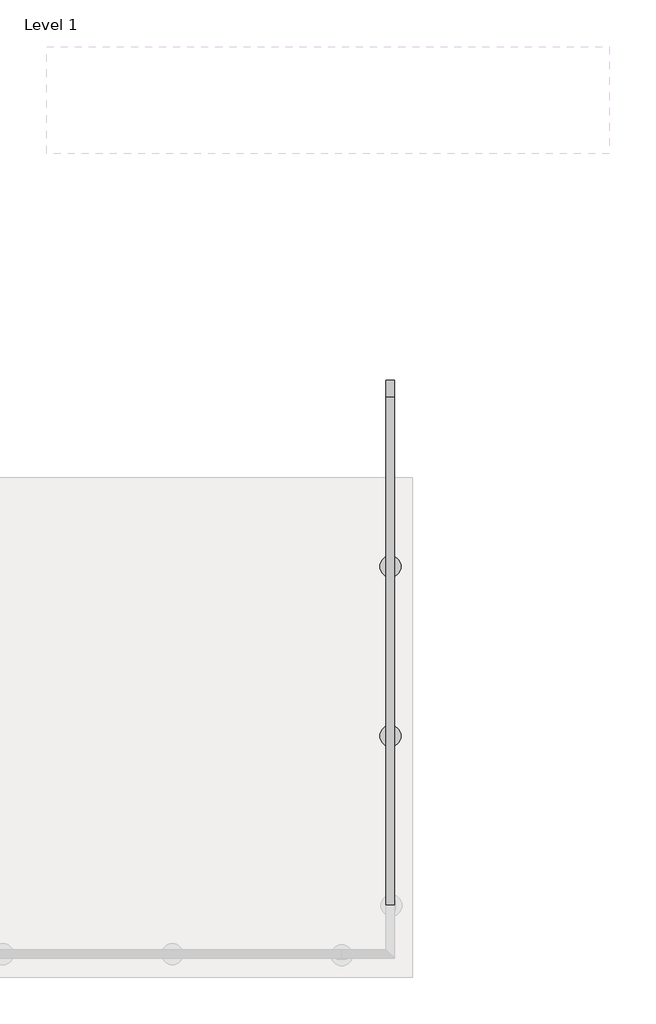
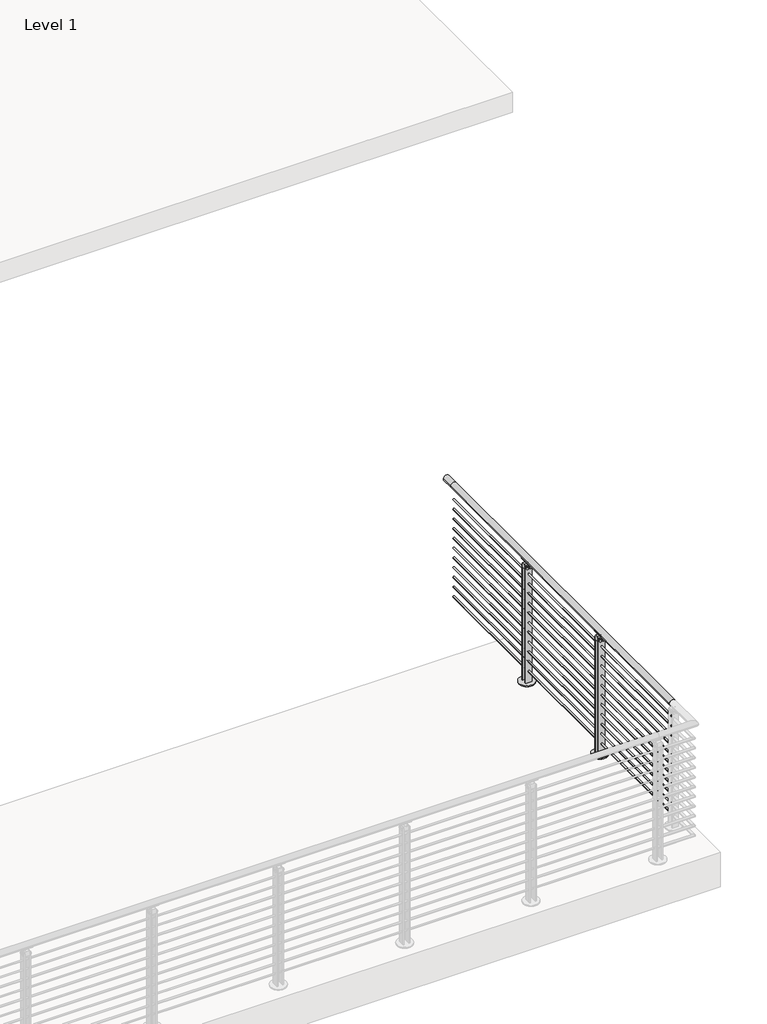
# One storey, part 14 of 36: 1 railing.
"""IFC4 building model written with IfcOpenShell, lengths in millimetres."""

from ifc_helpers import new_model, si_unit, point, frame, frame_2d, origin, origin_with_axes, place, context, project, spatial, polyline, circle_curve, trimmed, segment, composite_curve, outline, extrude, element, save
from ifc_brep_helpers import plane_surface, cylinder_surface, revolved_surface, advanced_brep

model = new_model("IFC4")

# Units and contexts
model_context = context("Model", 3, world=origin())
ifc_project = project(units=[si_unit("LENGTHUNIT", "METRE", prefix="MILLI")], contexts=[model_context])

# Site, building, storey
site = spatial("IfcSite", under=ifc_project)
building = spatial("IfcBuilding", under=site)
storey = spatial("IfcBuildingStorey", under=building, Name="Level 1", Elevation=0.0)

# Railing
placement = place(None, origin())
element("IfcRailing", 1, ObjectType="VIVA-BLADE-Multiline-Core Mount-Straight", at=placement, inside=storey, context=model_context, shape_type="SolidModel", body=[
    advanced_brep(
    [(69915.8092968, -74583.4334719, 1054.1), (69865.0092968, -74583.4334719, 1054.1), (69915.8092968, -71535.4334719, 1054.1), (69865.0092968, -71535.4334719, 1054.1), (69915.8092968, -71433.8334719, 1054.1), (69865.0092968, -71433.8334719, 1054.1)],
    [
        (0, 1, circle_curve(frame((69890.4092968, -74583.4334719, 1054.1), z_axis=(0.0, -1.0, 0.0), x_axis=(-1.0, 0.0, 0.0)), 25.4)),
        (1, 0, circle_curve(frame((69890.4092968, -74583.4334719, 1054.1), z_axis=(0.0, -1.0, 0.0), x_axis=(-1.0, 0.0, 0.0)), 25.4)),
        (0, 2),
        (2, 3, circle_curve(frame((69890.4092968, -71535.4334719, 1054.1), z_axis=(0.0, -1.0, 0.0), x_axis=(-1.0, 0.0, 0.0)), 25.4)),
        (3, 1),
        (3, 2, circle_curve(frame((69890.4092968, -71535.4334719, 1054.1), z_axis=(0.0, -1.0, 0.0), x_axis=(-1.0, 0.0, 0.0)), 25.4)),
        (4, 5, circle_curve(frame((69890.4092968, -71433.8334719, 1054.1), z_axis=(0.0, 1.0, 0.0), x_axis=(-1.0, 0.0, 0.0)), 25.4)),
        (5, 4, circle_curve(frame((69890.4092968, -71433.8334719, 1054.1), z_axis=(0.0, 1.0, 0.0), x_axis=(-1.0, 0.0, 0.0)), 25.4)),
        (2, 4),
        (5, 3),
    ],
    [
        plane_surface(frame((69890.4092968, -74583.4334719, 1079.5), z_axis=(0.0, -1.0, 0.0), x_axis=(0.0, 0.0, 1.0))),
        cylinder_surface(frame((69890.4092968, -74583.4334719, 1054.1), z_axis=(0.0, -1.0, 0.0), x_axis=(-1.0, 0.0, 0.0)), 25.4),
        plane_surface(frame((69890.4092968, -71433.8334719, 1079.5), z_axis=(0.0, 1.0, 0.0), x_axis=(0.0, 0.0, 1.0))),
        cylinder_surface(frame((69890.4092968, -71535.4334719, 1054.1), z_axis=(0.0, -1.0, 0.0), x_axis=(-1.0, 0.0, 0.0)), 25.4),
    ],
    [
        (0, [[1, 2]]),
        (1, [[-1, 3, 4, 5]]),
        (1, [[-2, -5, 6, -3]]),
        (2, [[7, 8]]),
        (3, [[-4, 9, -8, 10]]),
        (3, [[-6, -10, -7, -9]]),
    ],
),
    extrude(outline(composite_curve([segment(trimmed(circle_curve(frame_2d((933.45, 69890.4092968)), 6.35), [point((933.45, 69884.0592968))], [point((933.45, 69896.7592968))], False, "CARTESIAN"), True, "CONTINUOUS"), segment(trimmed(circle_curve(frame_2d((933.45, 69890.4092968)), 6.35), [point((933.45, 69896.7592968))], [point((933.45, 69884.0592968))], False, "CARTESIAN"), True, "CONTINUOUS")], self_intersect=False)), frame((0.0, -74583.4334719, 0.0), z_axis=(0.0, 1.0, 0.0), x_axis=(0.0, 0.0, 1.0)), (0.0, 0.0, 1.0), 3048.0),
    extrude(outline(composite_curve([segment(trimmed(circle_curve(frame_2d((850.9, 69890.4092968)), 6.35), [point((850.9, 69884.0592968))], [point((850.9, 69896.7592968))], False, "CARTESIAN"), True, "CONTINUOUS"), segment(trimmed(circle_curve(frame_2d((850.9, 69890.4092968)), 6.35), [point((850.9, 69896.7592968))], [point((850.9, 69884.0592968))], False, "CARTESIAN"), True, "CONTINUOUS")], self_intersect=False)), frame((0.0, -74583.4334719, 0.0), z_axis=(0.0, 1.0, 0.0), x_axis=(0.0, 0.0, 1.0)), (0.0, 0.0, 1.0), 3048.0),
    extrude(outline(composite_curve([segment(trimmed(circle_curve(frame_2d((768.35, 69890.4092968)), 6.35), [point((768.35, 69884.0592968))], [point((768.35, 69896.7592968))], False, "CARTESIAN"), True, "CONTINUOUS"), segment(trimmed(circle_curve(frame_2d((768.35, 69890.4092968)), 6.35), [point((768.35, 69896.7592968))], [point((768.35, 69884.0592968))], False, "CARTESIAN"), True, "CONTINUOUS")], self_intersect=False)), frame((0.0, -74583.4334719, 0.0), z_axis=(0.0, 1.0, 0.0), x_axis=(0.0, 0.0, 1.0)), (0.0, 0.0, 1.0), 3048.0),
    extrude(outline(composite_curve([segment(trimmed(circle_curve(frame_2d((685.8, 69890.4092968)), 6.35), [point((685.8, 69884.0592968))], [point((685.8, 69896.7592968))], False, "CARTESIAN"), True, "CONTINUOUS"), segment(trimmed(circle_curve(frame_2d((685.8, 69890.4092968)), 6.35), [point((685.8, 69896.7592968))], [point((685.8, 69884.0592968))], False, "CARTESIAN"), True, "CONTINUOUS")], self_intersect=False)), frame((0.0, -74583.4334719, 0.0), z_axis=(0.0, 1.0, 0.0), x_axis=(0.0, 0.0, 1.0)), (0.0, 0.0, 1.0), 3048.0),
    extrude(outline(composite_curve([segment(trimmed(circle_curve(frame_2d((603.25, 69890.4092968)), 6.35), [point((603.25, 69884.0592968))], [point((603.25, 69896.7592968))], False, "CARTESIAN"), True, "CONTINUOUS"), segment(trimmed(circle_curve(frame_2d((603.25, 69890.4092968)), 6.35), [point((603.25, 69896.7592968))], [point((603.25, 69884.0592968))], False, "CARTESIAN"), True, "CONTINUOUS")], self_intersect=False)), frame((0.0, -74583.4334719, 0.0), z_axis=(0.0, 1.0, 0.0), x_axis=(0.0, 0.0, 1.0)), (0.0, 0.0, 1.0), 3048.0),
    extrude(outline(composite_curve([segment(trimmed(circle_curve(frame_2d((520.7, 69890.4092968)), 6.35), [point((520.7, 69884.0592968))], [point((520.7, 69896.7592968))], False, "CARTESIAN"), True, "CONTINUOUS"), segment(trimmed(circle_curve(frame_2d((520.7, 69890.4092968)), 6.35), [point((520.7, 69896.7592968))], [point((520.7, 69884.0592968))], False, "CARTESIAN"), True, "CONTINUOUS")], self_intersect=False)), frame((0.0, -74583.4334719, 0.0), z_axis=(0.0, 1.0, 0.0), x_axis=(0.0, 0.0, 1.0)), (0.0, 0.0, 1.0), 3048.0),
    extrude(outline(composite_curve([segment(trimmed(circle_curve(frame_2d((438.15, 69890.4092968)), 6.35), [point((438.15, 69884.0592968))], [point((438.15, 69896.7592968))], False, "CARTESIAN"), True, "CONTINUOUS"), segment(trimmed(circle_curve(frame_2d((438.15, 69890.4092968)), 6.35), [point((438.15, 69896.7592968))], [point((438.15, 69884.0592968))], False, "CARTESIAN"), True, "CONTINUOUS")], self_intersect=False)), frame((0.0, -74583.4334719, 0.0), z_axis=(0.0, 1.0, 0.0), x_axis=(0.0, 0.0, 1.0)), (0.0, 0.0, 1.0), 3048.0),
    extrude(outline(composite_curve([segment(trimmed(circle_curve(frame_2d((355.6, 69890.4092968)), 6.35), [point((355.6, 69884.0592968))], [point((355.6, 69896.7592968))], False, "CARTESIAN"), True, "CONTINUOUS"), segment(trimmed(circle_curve(frame_2d((355.6, 69890.4092968)), 6.35), [point((355.6, 69896.7592968))], [point((355.6, 69884.0592968))], False, "CARTESIAN"), True, "CONTINUOUS")], self_intersect=False)), frame((0.0, -74583.4334719, 0.0), z_axis=(0.0, 1.0, 0.0), x_axis=(0.0, 0.0, 1.0)), (0.0, 0.0, 1.0), 3048.0),
    extrude(outline(composite_curve([segment(trimmed(circle_curve(frame_2d((273.05, 69890.4092968)), 6.35), [point((273.05, 69884.0592968))], [point((273.05, 69896.7592968))], False, "CARTESIAN"), True, "CONTINUOUS"), segment(trimmed(circle_curve(frame_2d((273.05, 69890.4092968)), 6.35), [point((273.05, 69896.7592968))], [point((273.05, 69884.0592968))], False, "CARTESIAN"), True, "CONTINUOUS")], self_intersect=False)), frame((0.0, -74583.4334719, 0.0), z_axis=(0.0, 1.0, 0.0), x_axis=(0.0, 0.0, 1.0)), (0.0, 0.0, 1.0), 3048.0),
    extrude(outline(composite_curve([segment(trimmed(circle_curve(frame_2d((190.5, 69890.4092968)), 6.35), [point((190.5, 69884.0592968))], [point((190.5, 69896.7592968))], False, "CARTESIAN"), True, "CONTINUOUS"), segment(trimmed(circle_curve(frame_2d((190.5, 69890.4092968)), 6.35), [point((190.5, 69896.7592968))], [point((190.5, 69884.0592968))], False, "CARTESIAN"), True, "CONTINUOUS")], self_intersect=False)), frame((0.0, -74583.4334719, 0.0), z_axis=(0.0, 1.0, 0.0), x_axis=(0.0, 0.0, 1.0)), (0.0, 0.0, 1.0), 3048.0),
    extrude(outline(composite_curve([segment(trimmed(circle_curve(frame_2d((107.95, 69890.4092968)), 6.35), [point((107.95, 69884.0592968))], [point((107.95, 69896.7592968))], False, "CARTESIAN"), True, "CONTINUOUS"), segment(trimmed(circle_curve(frame_2d((107.95, 69890.4092968)), 6.35), [point((107.95, 69896.7592968))], [point((107.95, 69884.0592968))], False, "CARTESIAN"), True, "CONTINUOUS")], self_intersect=False)), frame((0.0, -74583.4334719, 0.0), z_axis=(0.0, 1.0, 0.0), x_axis=(0.0, 0.0, 1.0)), (0.0, 0.0, 1.0), 3048.0),
    extrude(outline(polyline([(69865.0095001, -72578.5083075), (69865.0095001, -72570.4834719), (69915.8118247, -72570.4834719), (69915.8118247, -72578.5083075), (69865.0095001, -72578.5083075)])), frame((0.0, 0.0, -146.05), z_axis=(0.0, 0.0, 1.0), x_axis=(1.0, 0.0, 0.0)), (0.0, 0.0, 1.0), 146.05),
    extrude(outline(polyline([(69865.0095001, -72532.3835099), (69865.0095001, -72524.3825099), (69915.8118247, -72524.3825099), (69915.8118247, -72532.3835099), (69865.0095001, -72532.3835099)])), frame((0.0, 0.0, -146.05), z_axis=(0.0, 0.0, 1.0), x_axis=(1.0, 0.0, 0.0)), (0.0, 0.0, 1.0), 146.05),
    extrude(outline(composite_curve([segment(trimmed(circle_curve(frame_2d((69890.4092968, -72551.4454087)), 63.4988059), [point((69953.9081027, -72551.4454087))], [point((69826.9104908, -72551.4454087))], False, "CARTESIAN"), True, "CONTINUOUS"), segment(trimmed(circle_curve(frame_2d((69890.4092968, -72551.4454087)), 63.4988059), [point((69826.9104908, -72551.4454087))], [point((69953.9081027, -72551.4454087))], False, "CARTESIAN"), True, "CONTINUOUS")], self_intersect=False)), origin_with_axes(), (0.0, 0.0, 1.0), 9.525),
    advanced_brep(
    [(69877.6491731, -72506.1960719, 1032.0967655), (69902.5212376, -72506.1960719, 1031.9535285), (69905.330168, -72506.1960719, 1027.1267745), (69873.8132757, -72506.1960719, 1027.707533), (69877.6491731, -72596.6708719, 1032.0967655), (69873.8132757, -72596.6708719, 1027.707533), (69905.4439614, -72596.6708719, 1027.1893964), (69902.6082098, -72596.6708719, 1032.0018447)],
    [
        (0, 1, circle_curve(frame((69890.212976, -72506.1960719, 1054.2115898), z_axis=(0.0, -1.0, 0.0), x_axis=(-1.0, 0.0, 0.0)), 25.4345159)),
        (1, 2, circle_curve(frame((69903.8528629, -72506.1960719, 1029.4993599), z_axis=(0.0, 1.0, 0.0), x_axis=(-1.0, 0.0, 0.0)), 2.7949225)),
        (2, 3, circle_curve(frame((69890.0795129, -72506.1960719, 1054.9742164), z_axis=(0.0, 1.0, 0.0), x_axis=(-1.0, 0.0, 0.0)), 31.75)),
        (3, 0, circle_curve(frame((69876.1016155, -72506.1960719, 1029.5784521), z_axis=(0.0, 1.0, 0.0), x_axis=(-1.0, 0.0, 0.0)), 2.9558141)),
        (4, 5, circle_curve(frame((69876.1016155, -72596.6708719, 1029.5784521), z_axis=(0.0, -1.0, 0.0), x_axis=(-1.0, 0.0, 0.0)), 2.9558141)),
        (5, 6, circle_curve(frame((69890.0795129, -72596.6708719, 1054.9742164), z_axis=(0.0, -1.0, 0.0), x_axis=(-1.0, 0.0, 0.0)), 31.75)),
        (6, 7, circle_curve(frame((69903.8528629, -72596.6708719, 1029.4993599), z_axis=(0.0, -1.0, 0.0), x_axis=(-1.0, 0.0, 0.0)), 2.7949225)),
        (7, 4, circle_curve(frame((69890.212976, -72596.6708719, 1054.2115898), z_axis=(0.0, 1.0, 0.0), x_axis=(-1.0, 0.0, 0.0)), 25.4345159)),
        (0, 4),
        (7, 1),
        (6, 2),
        (5, 3),
    ],
    [
        plane_surface(frame((69864.7784602, -72506.1960719, 1054.2115898), z_axis=(0.0, 1.0, 0.0), x_axis=(0.0, 0.0, -1.0))),
        plane_surface(frame((69864.7784602, -72596.6708719, 1054.2115898), z_axis=(0.0, -1.0, 0.0), x_axis=(0.0, 0.0, 1.0))),
        revolved_surface(polyline([(69864.7784601, -72596.6708719, 1054.2115898), (69864.7784601, -72506.1960719, 1054.2115898)]), (69890.212976, -72596.6708719, 1054.2115898), (0.0, -1.0, 0.0)),
        cylinder_surface(frame((69903.8528629, -72596.6708719, 1029.4993599), z_axis=(0.0, 1.0, 0.0), x_axis=(-1.0, 0.0, 0.0)), 2.7949225),
        cylinder_surface(frame((69890.0795129, -72596.6708719, 1054.9742164), z_axis=(0.0, 1.0, 0.0), x_axis=(-1.0, 0.0, 0.0)), 31.75),
        cylinder_surface(frame((69876.1016155, -72596.6708719, 1029.5784521), z_axis=(0.0, 1.0, 0.0), x_axis=(-1.0, 0.0, 0.0)), 2.9558141),
    ],
    [
        (0, [[1, 2, 3, 4]]),
        (1, [[5, 6, 7, 8]]),
        (2, [[-1, 9, -8, 10]]),
        (3, [[-2, -10, -7, 11]]),
        (4, [[-3, -11, -6, 12]]),
        (5, [[-4, -12, -5, -9]]),
    ],
),
    advanced_brep(
    [(69887.8692968, -72538.7334719, 1014.4125), (69887.8692968, -72564.1334719, 1014.4125), (69887.8692968, -72578.5013867, 1028.7804149), (69887.8692968, -72524.365557, 1028.7804149), (69892.9492968, -72538.7334719, 1014.4125), (69892.9492968, -72524.365557, 1028.7804149), (69892.9492968, -72578.5013867, 1028.7804149), (69892.9492968, -72564.1334719, 1014.4125)],
    [
        (0, 1),
        (1, 2, circle_curve(frame((69887.8692968, -72578.5013867, 1014.4125), z_axis=(1.0, 0.0, 0.0), x_axis=(0.0, -1.0, 0.0)), 14.3679149)),
        (2, 3),
        (3, 0, circle_curve(frame((69887.8692968, -72524.365557, 1014.4125), z_axis=(1.0, 0.0, 0.0), x_axis=(0.0, -1.0, 0.0)), 14.3679149)),
        (4, 5, circle_curve(frame((69892.9492968, -72524.365557, 1014.4125), z_axis=(-1.0, 0.0, 0.0), x_axis=(0.0, -1.0, 0.0)), 14.3679149)),
        (5, 6),
        (6, 7, circle_curve(frame((69892.9492968, -72578.5013867, 1014.4125), z_axis=(-1.0, 0.0, 0.0), x_axis=(0.0, -1.0, 0.0)), 14.3679149)),
        (7, 4),
        (0, 4),
        (7, 1),
        (6, 2),
        (5, 3),
    ],
    [
        plane_surface(frame((69887.8692968, -72564.1334719, 1014.4125), z_axis=(-1.0, 0.0, 0.0), x_axis=(0.0, -1.0, 0.0))),
        plane_surface(frame((69892.9492968, -72564.1334719, 1014.4125), z_axis=(1.0, 0.0, 0.0), x_axis=(0.0, 1.0, 0.0))),
        plane_surface(frame((69887.8692968, -72538.7334719, 1014.4125), z_axis=(0.0, 0.0, -1.0), x_axis=(1.0, 0.0, 0.0))),
        revolved_surface(polyline([(69892.9492968, -72592.86930159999, 1014.4125), (69887.8692968, -72592.86930159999, 1014.4125)]), (69892.9492968, -72578.5013867, 1014.4125), (1.0, 0.0, 0.0)),
        plane_surface(frame((69887.8692968, -72578.5013867, 1028.7804149), z_axis=(0.0, 0.0, 1.0), x_axis=(1.0, 0.0, 0.0))),
        revolved_surface(polyline([(69892.9492968, -72538.73347189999, 1014.4125), (69887.8692968, -72538.73347189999, 1014.4125)]), (69892.9492968, -72524.365557, 1014.4125), (1.0, 0.0, 0.0)),
    ],
    [
        (0, [[1, 2, 3, 4]]),
        (1, [[5, 6, 7, 8]]),
        (2, [[-1, 9, -8, 10]]),
        (3, [[-2, -10, -7, 11]]),
        (4, [[-3, -11, -6, 12]]),
        (5, [[-4, -12, -5, -9]]),
    ],
),
    extrude(outline(polyline([(69865.0095001, -72578.5083075), (69865.0095001, -72570.4834719), (69915.8118247, -72570.4834719), (69915.8118247, -72578.5083075), (69865.0095001, -72578.5083075)])), origin_with_axes(), (0.0, 0.0, 1.0), 996.95),
    extrude(outline(composite_curve([segment(trimmed(circle_curve(frame_2d((986.0416929, 69903.1117737)), 8.89), [point((986.0416929, 69912.0017737))], [point((986.0416929, 69894.2217737))], False, "CARTESIAN"), True, "CONTINUOUS"), segment(trimmed(circle_curve(frame_2d((986.0416929, 69903.1117737)), 8.89), [point((986.0416929, 69894.2217737))], [point((986.0416929, 69912.0017737))], False, "CARTESIAN"), True, "CONTINUOUS")], self_intersect=False)), frame((0.0, -72583.1834719, 0.0), z_axis=(0.0, 1.0, 0.0), x_axis=(0.0, 0.0, 1.0)), (0.0, 0.0, 1.0), 63.4880631),
    extrude(outline(composite_curve([segment(trimmed(circle_curve(frame_2d((986.0416929, 69877.7118757)), 8.89), [point((986.0416929, 69886.6018757))], [point((986.0416929, 69868.8218757))], False, "CARTESIAN"), True, "CONTINUOUS"), segment(trimmed(circle_curve(frame_2d((986.0416929, 69877.7118757)), 8.89), [point((986.0416929, 69868.8218757))], [point((986.0416929, 69886.6018757))], False, "CARTESIAN"), True, "CONTINUOUS")], self_intersect=False)), frame((0.0, -72583.1834719, 0.0), z_axis=(0.0, 1.0, 0.0), x_axis=(0.0, 0.0, 1.0)), (0.0, 0.0, 1.0), 63.4880631),
    extrude(outline(polyline([(-72570.4834719, 974.7123), (-72570.4834719, 1008.0625), (-72564.1334719, 1014.4125), (-72538.7334719, 1014.4125), (-72532.3834719, 1008.0625), (-72532.3834719, 974.7123), (-72570.4834719, 974.7123)])), frame((69865.0092968, 0.0, 0.0), z_axis=(1.0, 0.0, 0.0), x_axis=(0.0, 1.0, 0.0)), (0.0, 0.0, 1.0), 50.8025279),
    extrude(outline(polyline([(69865.0095001, -72532.3835099), (69865.0095001, -72524.3825099), (69915.8118247, -72524.3825099), (69915.8118247, -72532.3835099), (69865.0095001, -72532.3835099)])), origin_with_axes(), (0.0, 0.0, 1.0), 996.95),
    extrude(outline(polyline([(69865.0095001, -73594.5083075), (69865.0095001, -73586.4834719), (69915.8118247, -73586.4834719), (69915.8118247, -73594.5083075), (69865.0095001, -73594.5083075)])), frame((0.0, 0.0, -146.05), z_axis=(0.0, 0.0, 1.0), x_axis=(1.0, 0.0, 0.0)), (0.0, 0.0, 1.0), 146.05),
    extrude(outline(polyline([(69865.0095001, -73548.3835099), (69865.0095001, -73540.3825099), (69915.8118247, -73540.3825099), (69915.8118247, -73548.3835099), (69865.0095001, -73548.3835099)])), frame((0.0, 0.0, -146.05), z_axis=(0.0, 0.0, 1.0), x_axis=(1.0, 0.0, 0.0)), (0.0, 0.0, 1.0), 146.05),
    extrude(outline(composite_curve([segment(trimmed(circle_curve(frame_2d((69890.4092968, -73567.4454087)), 63.4988059), [point((69953.9081027, -73567.4454087))], [point((69826.9104908, -73567.4454087))], False, "CARTESIAN"), True, "CONTINUOUS"), segment(trimmed(circle_curve(frame_2d((69890.4092968, -73567.4454087)), 63.4988059), [point((69826.9104908, -73567.4454087))], [point((69953.9081027, -73567.4454087))], False, "CARTESIAN"), True, "CONTINUOUS")], self_intersect=False)), origin_with_axes(), (0.0, 0.0, 1.0), 9.525),
    advanced_brep(
    [(69877.6491731, -73522.1960719, 1032.0967655), (69902.5212376, -73522.1960719, 1031.9535285), (69905.330168, -73522.1960719, 1027.1267745), (69873.8132757, -73522.1960719, 1027.707533), (69877.6491731, -73612.6708719, 1032.0967655), (69873.8132757, -73612.6708719, 1027.707533), (69905.4439614, -73612.6708719, 1027.1893964), (69902.6082098, -73612.6708719, 1032.0018447)],
    [
        (0, 1, circle_curve(frame((69890.212976, -73522.1960719, 1054.2115898), z_axis=(0.0, -1.0, 0.0), x_axis=(-1.0, 0.0, 0.0)), 25.4345159)),
        (1, 2, circle_curve(frame((69903.8528629, -73522.1960719, 1029.4993599), z_axis=(0.0, 1.0, 0.0), x_axis=(-1.0, 0.0, 0.0)), 2.7949225)),
        (2, 3, circle_curve(frame((69890.0795129, -73522.1960719, 1054.9742164), z_axis=(0.0, 1.0, 0.0), x_axis=(-1.0, 0.0, 0.0)), 31.75)),
        (3, 0, circle_curve(frame((69876.1016155, -73522.1960719, 1029.5784521), z_axis=(0.0, 1.0, 0.0), x_axis=(-1.0, 0.0, 0.0)), 2.9558141)),
        (4, 5, circle_curve(frame((69876.1016155, -73612.6708719, 1029.5784521), z_axis=(0.0, -1.0, 0.0), x_axis=(-1.0, 0.0, 0.0)), 2.9558141)),
        (5, 6, circle_curve(frame((69890.0795129, -73612.6708719, 1054.9742164), z_axis=(0.0, -1.0, 0.0), x_axis=(-1.0, 0.0, 0.0)), 31.75)),
        (6, 7, circle_curve(frame((69903.8528629, -73612.6708719, 1029.4993599), z_axis=(0.0, -1.0, 0.0), x_axis=(-1.0, 0.0, 0.0)), 2.7949225)),
        (7, 4, circle_curve(frame((69890.212976, -73612.6708719, 1054.2115898), z_axis=(0.0, 1.0, 0.0), x_axis=(-1.0, 0.0, 0.0)), 25.4345159)),
        (0, 4),
        (7, 1),
        (6, 2),
        (5, 3),
    ],
    [
        plane_surface(frame((69864.7784602, -73522.1960719, 1054.2115898), z_axis=(0.0, 1.0, 0.0), x_axis=(0.0, 0.0, -1.0))),
        plane_surface(frame((69864.7784602, -73612.6708719, 1054.2115898), z_axis=(0.0, -1.0, 0.0), x_axis=(0.0, 0.0, 1.0))),
        revolved_surface(polyline([(69864.7784601, -73612.6708719, 1054.2115898), (69864.7784601, -73522.1960719, 1054.2115898)]), (69890.212976, -73612.6708719, 1054.2115898), (0.0, -1.0, 0.0)),
        cylinder_surface(frame((69903.8528629, -73612.6708719, 1029.4993599), z_axis=(0.0, 1.0, 0.0), x_axis=(-1.0, 0.0, 0.0)), 2.7949225),
        cylinder_surface(frame((69890.0795129, -73612.6708719, 1054.9742164), z_axis=(0.0, 1.0, 0.0), x_axis=(-1.0, 0.0, 0.0)), 31.75),
        cylinder_surface(frame((69876.1016155, -73612.6708719, 1029.5784521), z_axis=(0.0, 1.0, 0.0), x_axis=(-1.0, 0.0, 0.0)), 2.9558141),
    ],
    [
        (0, [[1, 2, 3, 4]]),
        (1, [[5, 6, 7, 8]]),
        (2, [[-1, 9, -8, 10]]),
        (3, [[-2, -10, -7, 11]]),
        (4, [[-3, -11, -6, 12]]),
        (5, [[-4, -12, -5, -9]]),
    ],
),
    advanced_brep(
    [(69887.8692968, -73554.7334719, 1014.4125), (69887.8692968, -73580.1334719, 1014.4125), (69887.8692968, -73594.5013867, 1028.7804149), (69887.8692968, -73540.365557, 1028.7804149), (69892.9492968, -73554.7334719, 1014.4125), (69892.9492968, -73540.365557, 1028.7804149), (69892.9492968, -73594.5013867, 1028.7804149), (69892.9492968, -73580.1334719, 1014.4125)],
    [
        (0, 1),
        (1, 2, circle_curve(frame((69887.8692968, -73594.5013867, 1014.4125), z_axis=(1.0, 0.0, 0.0), x_axis=(0.0, -1.0, 0.0)), 14.3679149)),
        (2, 3),
        (3, 0, circle_curve(frame((69887.8692968, -73540.365557, 1014.4125), z_axis=(1.0, 0.0, 0.0), x_axis=(0.0, -1.0, 0.0)), 14.3679149)),
        (4, 5, circle_curve(frame((69892.9492968, -73540.365557, 1014.4125), z_axis=(-1.0, 0.0, 0.0), x_axis=(0.0, -1.0, 0.0)), 14.3679149)),
        (5, 6),
        (6, 7, circle_curve(frame((69892.9492968, -73594.5013867, 1014.4125), z_axis=(-1.0, 0.0, 0.0), x_axis=(0.0, -1.0, 0.0)), 14.3679149)),
        (7, 4),
        (0, 4),
        (7, 1),
        (6, 2),
        (5, 3),
    ],
    [
        plane_surface(frame((69887.8692968, -73580.1334719, 1014.4125), z_axis=(-1.0, 0.0, 0.0), x_axis=(0.0, -1.0, 0.0))),
        plane_surface(frame((69892.9492968, -73580.1334719, 1014.4125), z_axis=(1.0, 0.0, 0.0), x_axis=(0.0, 1.0, 0.0))),
        plane_surface(frame((69887.8692968, -73554.7334719, 1014.4125), z_axis=(0.0, 0.0, -1.0), x_axis=(1.0, 0.0, 0.0))),
        revolved_surface(polyline([(69892.9492968, -73608.86930159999, 1014.4125), (69887.8692968, -73608.86930159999, 1014.4125)]), (69892.9492968, -73594.5013867, 1014.4125), (1.0, 0.0, 0.0)),
        plane_surface(frame((69887.8692968, -73594.5013867, 1028.7804149), z_axis=(0.0, 0.0, 1.0), x_axis=(1.0, 0.0, 0.0))),
        revolved_surface(polyline([(69892.9492968, -73554.73347189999, 1014.4125), (69887.8692968, -73554.73347189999, 1014.4125)]), (69892.9492968, -73540.365557, 1014.4125), (1.0, 0.0, 0.0)),
    ],
    [
        (0, [[1, 2, 3, 4]]),
        (1, [[5, 6, 7, 8]]),
        (2, [[-1, 9, -8, 10]]),
        (3, [[-2, -10, -7, 11]]),
        (4, [[-3, -11, -6, 12]]),
        (5, [[-4, -12, -5, -9]]),
    ],
),
    extrude(outline(polyline([(69865.0095001, -73594.5083075), (69865.0095001, -73586.4834719), (69915.8118247, -73586.4834719), (69915.8118247, -73594.5083075), (69865.0095001, -73594.5083075)])), origin_with_axes(), (0.0, 0.0, 1.0), 996.95),
    extrude(outline(composite_curve([segment(trimmed(circle_curve(frame_2d((986.0416929, 69903.1117737)), 8.89), [point((986.0416929, 69912.0017737))], [point((986.0416929, 69894.2217737))], False, "CARTESIAN"), True, "CONTINUOUS"), segment(trimmed(circle_curve(frame_2d((986.0416929, 69903.1117737)), 8.89), [point((986.0416929, 69894.2217737))], [point((986.0416929, 69912.0017737))], False, "CARTESIAN"), True, "CONTINUOUS")], self_intersect=False)), frame((0.0, -73599.1834719, 0.0), z_axis=(0.0, 1.0, 0.0), x_axis=(0.0, 0.0, 1.0)), (0.0, 0.0, 1.0), 63.4880631),
    extrude(outline(composite_curve([segment(trimmed(circle_curve(frame_2d((986.0416929, 69877.7118757)), 8.89), [point((986.0416929, 69886.6018757))], [point((986.0416929, 69868.8218757))], False, "CARTESIAN"), True, "CONTINUOUS"), segment(trimmed(circle_curve(frame_2d((986.0416929, 69877.7118757)), 8.89), [point((986.0416929, 69868.8218757))], [point((986.0416929, 69886.6018757))], False, "CARTESIAN"), True, "CONTINUOUS")], self_intersect=False)), frame((0.0, -73599.1834719, 0.0), z_axis=(0.0, 1.0, 0.0), x_axis=(0.0, 0.0, 1.0)), (0.0, 0.0, 1.0), 63.4880631),
    extrude(outline(polyline([(-73586.4834719, 974.7123), (-73586.4834719, 1008.0625), (-73580.1334719, 1014.4125), (-73554.7334719, 1014.4125), (-73548.3834719, 1008.0625), (-73548.3834719, 974.7123), (-73586.4834719, 974.7123)])), frame((69865.0092968, 0.0, 0.0), z_axis=(1.0, 0.0, 0.0), x_axis=(0.0, 1.0, 0.0)), (0.0, 0.0, 1.0), 50.8025279),
    extrude(outline(polyline([(69865.0095001, -73548.3835099), (69865.0095001, -73540.3825099), (69915.8118247, -73540.3825099), (69915.8118247, -73548.3835099), (69865.0095001, -73548.3835099)])), origin_with_axes(), (0.0, 0.0, 1.0), 996.95),
])

save(model, "model.ifc")
